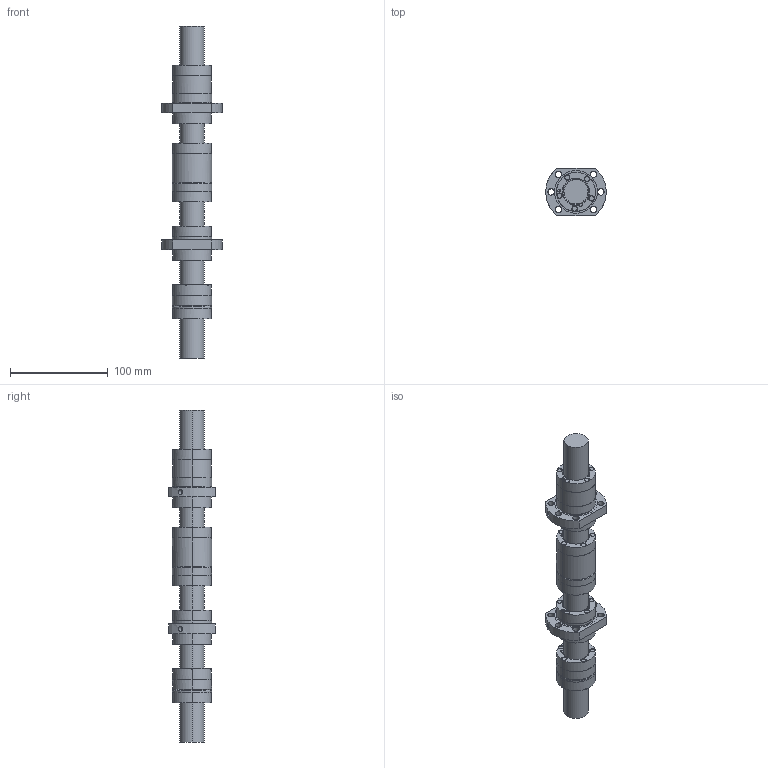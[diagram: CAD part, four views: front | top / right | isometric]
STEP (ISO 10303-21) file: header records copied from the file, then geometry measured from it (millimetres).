
FILE_DESCRIPTION(('Creo Elements/Direct Modeling STEP Export'),'2;1');
FILE_NAME('HSB-KGT-M-2525RH-5g.stp','2015-05-12T 8:49:56',(''),(''),'Creo Elements/Direct Modeling STEP processor for AP214 (Solid Model)','Creo Elements/Direct Modeling 18.1F 24-Jul-2014 (C) Parametric Technology GmbH','');
FILE_SCHEMA(('AUTOMOTIVE_DESIGN { 1 0 10303 214 1 1 1 1 }'));
Length unit declared in the file: millimetre
Products named in the file (5): HSB-KGM-F-2525-5g_22784; HSB-KGM-FL-2525-5g_22785; HSB-KGM-M-2525-5g_20729; HSB-KGM-ML-2525-5g_20730; HSB-KGS-2525-RH-5g-T7_23877
Bounding box: 61.8 x 48 x 340 mm (x, y, z)
Volume: 330981 mm3; surface area: 81543.8 mm2
Topology: 5 solids, 5 shells, 400 faces, 1174 edges, 804 vertices
Faces by surface type: cylinder 192, cone 116, plane 85, torus 7
Entity records: 18566 total; most frequent: CARTESIAN_POINT 5751, ORIENTED_EDGE 2324, DIRECTION 1738, EDGE_CURVE 1162, VERTEX_POINT 804, AXIS2_PLACEMENT_3D 703, EDGE_LOOP 464, COLOUR_RGB 405
